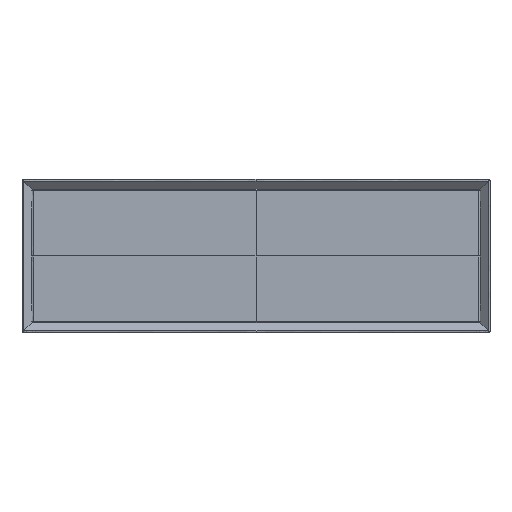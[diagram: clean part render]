
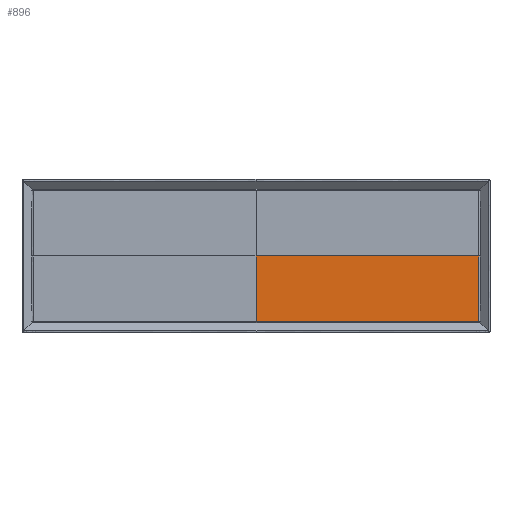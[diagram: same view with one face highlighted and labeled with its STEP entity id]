
A CAD part, front view. The second image highlights one B-rep face of the part: STEP entity #896.
In plain terms, the highlighted planar face has unit normal (0, -1, 0).
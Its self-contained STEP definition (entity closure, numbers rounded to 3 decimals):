
#876=AXIS2_PLACEMENT_3D('Plane Axis2P3D',#873,#874,#875) ;
#467=CARTESIAN_POINT('Vertex',(290.515,-1.477,-99.991)) ;
#471=CARTESIAN_POINT('Control Point',(290.515,-1.477,-99.991)) ;
#472=CARTESIAN_POINT('Control Point',(290.515,-1.477,-128.413)) ;
#473=CARTESIAN_POINT('Control Point',(290.515,-1.477,-156.835)) ;
#474=CARTESIAN_POINT('Control Point',(290.515,-1.477,-185.257)) ;
#475=CARTESIAN_POINT('Vertex',(290.515,-1.477,-185.257)) ;
#539=CARTESIAN_POINT('Vertex',(0.,-1.477,-185.257)) ;
#548=CARTESIAN_POINT('Control Point',(290.515,-1.477,-185.257)) ;
#549=CARTESIAN_POINT('Control Point',(193.677,-1.477,-185.257)) ;
#550=CARTESIAN_POINT('Control Point',(96.838,-1.477,-185.257)) ;
#551=CARTESIAN_POINT('Control Point',(0.,-1.477,-185.257)) ;
#873=CARTESIAN_POINT('Axis2P3D Location',(390.615,-1.477,-185.357)) ;
#878=CARTESIAN_POINT('Line Origine',(0.,-1.477,-142.624)) ;
#882=CARTESIAN_POINT('Vertex',(0.,-1.477,-99.991)) ;
#885=CARTESIAN_POINT('Line Origine',(145.258,-1.477,-99.991)) ;
#874=DIRECTION('Axis2P3D Direction',(-0.,-1.,-0.)) ;
#875=DIRECTION('Axis2P3D XDirection',(-1.,0.,0.)) ;
#879=DIRECTION('Vector Direction',(0.,0.,1.)) ;
#886=DIRECTION('Vector Direction',(-1.,0.,0.)) ;
#880=VECTOR('Line Direction',#879,1.) ;
#887=VECTOR('Line Direction',#886,1.) ;
#891=ORIENTED_EDGE('',*,*,#884,.F.) ;
#892=ORIENTED_EDGE('',*,*,#552,.F.) ;
#893=ORIENTED_EDGE('',*,*,#477,.F.) ;
#894=ORIENTED_EDGE('',*,*,#889,.T.) ;
#896=ADVANCED_FACE('Body.3',(#895),#877,.T.) ;
#477=EDGE_CURVE('',#468,#476,#470,.T.) ;
#552=EDGE_CURVE('',#476,#540,#547,.T.) ;
#884=EDGE_CURVE('',#540,#883,#881,.T.) ;
#889=EDGE_CURVE('',#468,#883,#888,.T.) ;
#890=EDGE_LOOP('',(#891,#892,#893,#894)) ;
#895=FACE_OUTER_BOUND('',#890,.T.) ;
#881=LINE('Line',#878,#880) ;
#888=LINE('Line',#885,#887) ;
#877=PLANE('Plane',#876) ;
#468=VERTEX_POINT('',#467) ;
#476=VERTEX_POINT('',#475) ;
#540=VERTEX_POINT('',#539) ;
#883=VERTEX_POINT('',#882) ;
#470=(BOUNDED_CURVE()B_SPLINE_CURVE(3,(#471,#472,#473,#474),.UNSPECIFIED.,.F.,.U.)B_SPLINE_CURVE_WITH_KNOTS((4,4),(132.604,217.87),.UNSPECIFIED.)CURVE()GEOMETRIC_REPRESENTATION_ITEM()RATIONAL_B_SPLINE_CURVE((1.,1.,1.,1.))REPRESENTATION_ITEM('')) ;
#547=(BOUNDED_CURVE()B_SPLINE_CURVE(3,(#548,#549,#550,#551),.UNSPECIFIED.,.F.,.U.)B_SPLINE_CURVE_WITH_KNOTS((4,4),(48.286,338.801),.UNSPECIFIED.)CURVE()GEOMETRIC_REPRESENTATION_ITEM()RATIONAL_B_SPLINE_CURVE((1.,1.,1.,1.))REPRESENTATION_ITEM('')) ;
